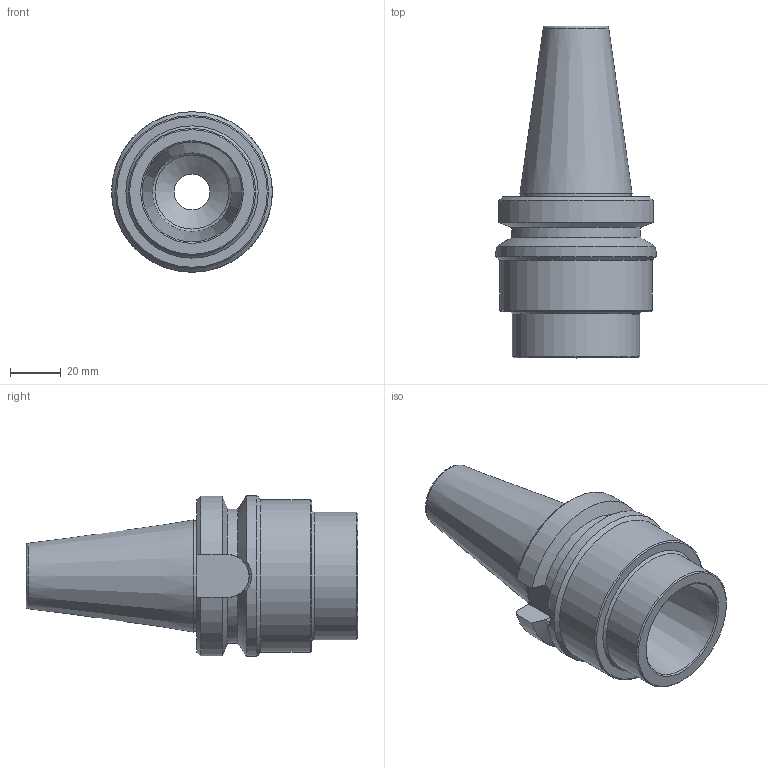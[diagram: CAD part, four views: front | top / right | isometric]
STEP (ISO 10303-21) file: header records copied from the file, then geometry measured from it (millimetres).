
FILE_DESCRIPTION(/* description */ (''),/* implementation_level */ '2;1');
FILE_NAME(/* name */ 'Z:\Проектный отдел\Влад\Фрезерные патроны\BT40-ER40-80.stp',/* time_stamp */ '2023-03-30T12:04:06+03:00',/* author */ ('инженер'),/* organization */ (''),/* preprocessor_version */ 'ST-DEVELOPER v18',/* originating_system */ 'Autodesk Inventor 2020',/* authorisation */ '');
FILE_SCHEMA (('AUTOMOTIVE_DESIGN { 1 0 10303 214 3 1 1 }'));
Length unit declared in the file: millimetre
Products named in the file (1): BT40-SLN25-100L
Bounding box: 63 x 130.2 x 63 mm (x, y, z)
Volume: 154666.1 mm3; surface area: 33836.4 mm2
Topology: 1 solids, 1 shells, 44 faces, 122 edges, 84 vertices
Faces by surface type: cone 15, cylinder 14, plane 12, bspline 2, torus 1
Full cylindrical faces by diameter (mm): 14.1 x1, 17 x1, 29.108 x1, 31 x1, 43.3 x1, 49.9 x1, 60 x1, 63 x1
Entity records: 1614 total; most frequent: CARTESIAN_POINT 436, ORIENTED_EDGE 244, DIRECTION 241, EDGE_CURVE 122, AXIS2_PLACEMENT_3D 101, VERTEX_POINT 84, CIRCLE 58, EDGE_LOOP 50
